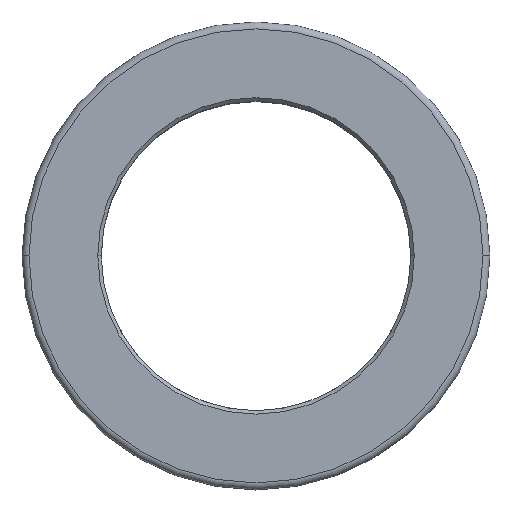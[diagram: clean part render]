
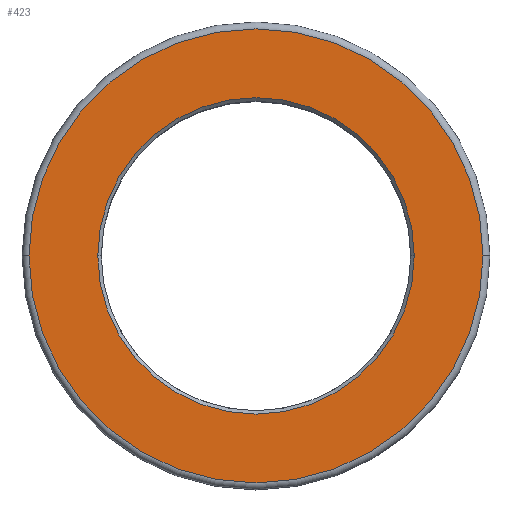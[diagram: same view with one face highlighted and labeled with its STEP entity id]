
A CAD part, top view. The second image highlights one B-rep face of the part: STEP entity #423.
In plain terms, the highlighted planar face has unit normal (0, 0, 1).
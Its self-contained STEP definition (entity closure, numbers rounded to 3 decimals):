
#6 = CIRCLE ( 'NONE', #1406, 33. ) ;
#12 = DIRECTION ( 'NONE',  ( 0., 0., -1. ) ) ;
#40 = DIRECTION ( 'NONE',  ( 1., 0., 0. ) ) ;
#62 = CARTESIAN_POINT ( 'NONE',  ( 4.142, 2.992, 38. ) ) ;
#156 = FACE_BOUND ( 'NONE', #313, .T. ) ;
#157 = VERTEX_POINT ( 'NONE', #1433 ) ;
#191 = VERTEX_POINT ( 'NONE', #787 ) ;
#205 = EDGE_CURVE ( 'NONE', #755, #157, #6, .T. ) ;
#216 = EDGE_CURVE ( 'NONE', #753, #191, #1127, .T. ) ;
#226 = EDGE_CURVE ( 'NONE', #191, #753, #1461, .T. ) ;
#294 = AXIS2_PLACEMENT_3D ( 'NONE', #62, #463, #1623 ) ;
#305 = EDGE_CURVE ( 'NONE', #157, #755, #1586, .T. ) ;
#313 = EDGE_LOOP ( 'NONE', ( #1425, #1328 ) ) ;
#351 = CARTESIAN_POINT ( 'NONE',  ( 4.142, 2.992, 38. ) ) ;
#384 = CARTESIAN_POINT ( 'NONE',  ( -28.858, 2.992, 38. ) ) ;
#398 = EDGE_LOOP ( 'NONE', ( #673, #1549 ) ) ;
#423 = ADVANCED_FACE ( 'NONE', ( #635, #156 ), #794, .T. ) ;
#457 = DIRECTION ( 'NONE',  ( 0., 0., -1. ) ) ;
#463 = DIRECTION ( 'NONE',  ( 0., 0., 1. ) ) ;
#474 = CARTESIAN_POINT ( 'NONE',  ( 4.142, 2.992, 38. ) ) ;
#536 = CARTESIAN_POINT ( 'NONE',  ( 27.142, 2.992, 38. ) ) ;
#567 = AXIS2_PLACEMENT_3D ( 'NONE', #474, #12, #1603 ) ;
#633 = CARTESIAN_POINT ( 'NONE',  ( 4.142, 2.992, 38. ) ) ;
#635 = FACE_OUTER_BOUND ( 'NONE', #398, .T. ) ;
#673 = ORIENTED_EDGE ( 'NONE', *, *, #305, .T. ) ;
#753 = VERTEX_POINT ( 'NONE', #536 ) ;
#755 = VERTEX_POINT ( 'NONE', #384 ) ;
#787 = CARTESIAN_POINT ( 'NONE',  ( -18.858, 2.992, 38. ) ) ;
#794 = PLANE ( 'NONE',  #294 ) ;
#803 = DIRECTION ( 'NONE',  ( 1., 0., 0. ) ) ;
#843 = AXIS2_PLACEMENT_3D ( 'NONE', #351, #1511, #803 ) ;
#1127 = CIRCLE ( 'NONE', #567, 23. ) ;
#1189 = DIRECTION ( 'NONE',  ( 0., 0., 1. ) ) ;
#1201 = CARTESIAN_POINT ( 'NONE',  ( 4.142, 2.992, 38. ) ) ;
#1328 = ORIENTED_EDGE ( 'NONE', *, *, #226, .T. ) ;
#1406 = AXIS2_PLACEMENT_3D ( 'NONE', #1201, #1189, #40 ) ;
#1425 = ORIENTED_EDGE ( 'NONE', *, *, #216, .T. ) ;
#1433 = CARTESIAN_POINT ( 'NONE',  ( 37.142, 2.992, 38. ) ) ;
#1461 = CIRCLE ( 'NONE', #1509, 23. ) ;
#1509 = AXIS2_PLACEMENT_3D ( 'NONE', #633, #457, #1765 ) ;
#1511 = DIRECTION ( 'NONE',  ( 0., 0., 1. ) ) ;
#1549 = ORIENTED_EDGE ( 'NONE', *, *, #205, .T. ) ;
#1586 = CIRCLE ( 'NONE', #843, 33. ) ;
#1603 = DIRECTION ( 'NONE',  ( 1., 0., 0. ) ) ;
#1623 = DIRECTION ( 'NONE',  ( 1., 0., 0. ) ) ;
#1765 = DIRECTION ( 'NONE',  ( 1., 0., 0. ) ) ;
